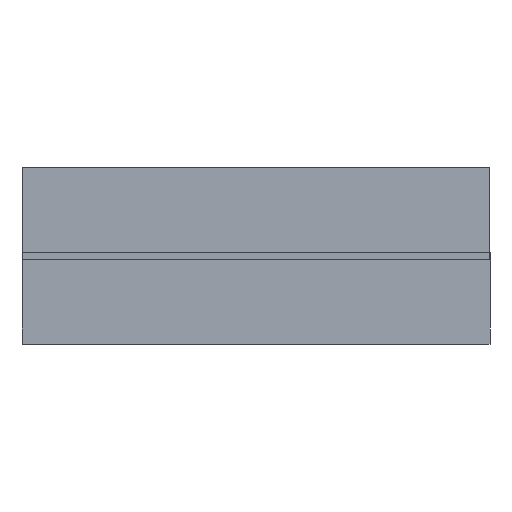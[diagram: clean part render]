
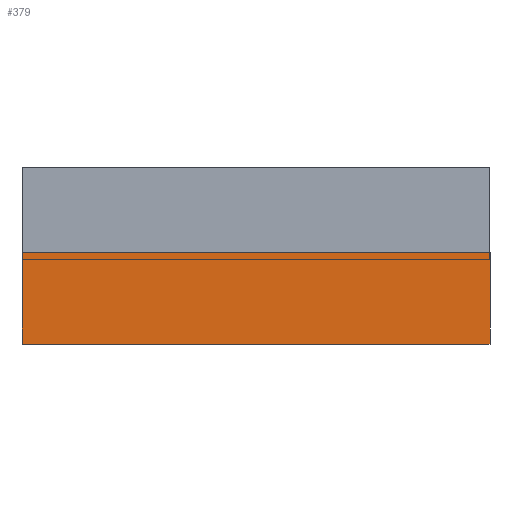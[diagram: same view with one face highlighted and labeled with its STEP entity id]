
A CAD part, front view. The second image highlights one B-rep face of the part: STEP entity #379.
In plain terms, the highlighted planar face has unit normal (0, -1, 0).
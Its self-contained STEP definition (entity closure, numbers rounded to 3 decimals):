
#379 = ADVANCED_FACE( '', ( #942 ), #943, .T. );
#942 = FACE_OUTER_BOUND( '', #3178, .T. );
#943 = PLANE( '', #3179 );
#3178 = EDGE_LOOP( '', ( #5009, #5010, #5011, #5012 ) );
#3179 = AXIS2_PLACEMENT_3D( '', #5013, #5014, #5015 );
#5009 = ORIENTED_EDGE( '', *, *, #5611, .F. );
#5010 = ORIENTED_EDGE( '', *, *, #5622, .F. );
#5011 = ORIENTED_EDGE( '', *, *, #5578, .T. );
#5012 = ORIENTED_EDGE( '', *, *, #5592, .T. );
#5013 = CARTESIAN_POINT( '', ( -100., -100., -39.08 ) );
#5014 = DIRECTION( '', ( 0., -1., 0. ) );
#5015 = DIRECTION( '', ( 1., 0., 0. ) );
#5578 = EDGE_CURVE( '', #6348, #6345, #6349, .T. );
#5592 = EDGE_CURVE( '', #6345, #6373, #6376, .T. );
#5611 = EDGE_CURVE( '', #6406, #6373, #6408, .T. );
#5622 = EDGE_CURVE( '', #6348, #6406, #6429, .T. );
#6345 = VERTEX_POINT( '', #8178 );
#6348 = VERTEX_POINT( '', #8182 );
#6349 = LINE( '', #8183, #8184 );
#6373 = VERTEX_POINT( '', #8210 );
#6376 = LINE( '', #8214, #8215 );
#6406 = VERTEX_POINT( '', #8248 );
#6408 = LINE( '', #8251, #8252 );
#6429 = LINE( '', #8273, #8274 );
#8178 = CARTESIAN_POINT( '', ( 100., -100., -39.08 ) );
#8182 = CARTESIAN_POINT( '', ( -100., -100., -39.08 ) );
#8183 = CARTESIAN_POINT( '', ( -100., -100., -39.08 ) );
#8184 = VECTOR( '', #9031, 1000. );
#8210 = CARTESIAN_POINT( '', ( 100., -100., 0. ) );
#8214 = CARTESIAN_POINT( '', ( 100., -100., -39.08 ) );
#8215 = VECTOR( '', #9065, 1000. );
#8248 = CARTESIAN_POINT( '', ( -100., -100., 0. ) );
#8251 = CARTESIAN_POINT( '', ( -100., -100., 0. ) );
#8252 = VECTOR( '', #9106, 1000. );
#8273 = CARTESIAN_POINT( '', ( -100., -100., -39.08 ) );
#8274 = VECTOR( '', #9137, 1000. );
#9031 = DIRECTION( '', ( 1., 0., 0. ) );
#9065 = DIRECTION( '', ( 0., 0., 1. ) );
#9106 = DIRECTION( '', ( 1., 0., 0. ) );
#9137 = DIRECTION( '', ( 0., 0., 1. ) );
